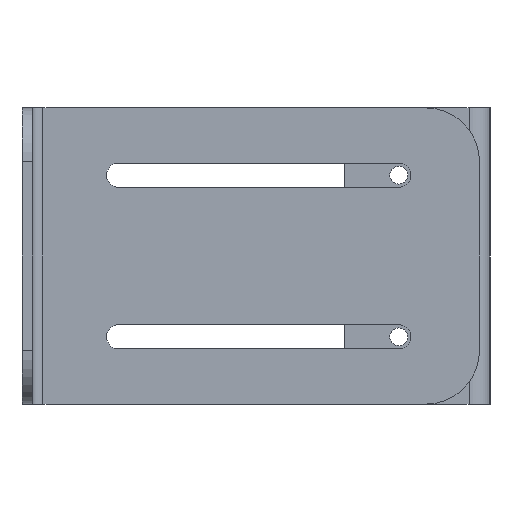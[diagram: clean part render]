
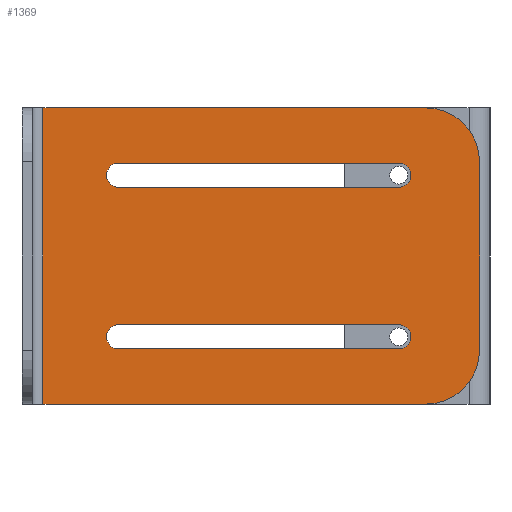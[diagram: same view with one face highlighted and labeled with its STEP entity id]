
A CAD part, left-side view. The second image highlights one B-rep face of the part: STEP entity #1369.
In plain terms, the highlighted planar face has unit normal (-1, 0, 0) as drawn and (0, 1, 0) by its records, which use the part's own axes.
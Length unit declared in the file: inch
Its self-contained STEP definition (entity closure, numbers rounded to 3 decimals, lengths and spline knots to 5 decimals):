
#50 = AXIS2_PLACEMENT_3D ( 'NONE', #2468, #1809, #1375 ) ;
#96 = CARTESIAN_POINT ( 'NONE',  ( 1.6065, 0.03937, 0.67913 ) ) ;
#133 = CARTESIAN_POINT ( 'NONE',  ( 2.19705, 0.03937, 0.68898 ) ) ;
#169 = EDGE_CURVE ( 'NONE', #885, #1834, #2436, .T. ) ;
#211 = DIRECTION ( 'NONE',  ( 0., 1., 0. ) ) ;
#251 = FACE_BOUND ( 'NONE', #488, .T. ) ;
#253 = VERTEX_POINT ( 'NONE', #2106 ) ;
#268 = ORIENTED_EDGE ( 'NONE', *, *, #1337, .F. ) ;
#279 = EDGE_CURVE ( 'NONE', #1284, #1930, #2688, .T. ) ;
#316 = LINE ( 'NONE', #1430, #934 ) ;
#346 = CIRCLE ( 'NONE', #2453, 0.3937 ) ;
#395 = VERTEX_POINT ( 'NONE', #574 ) ;
#410 = AXIS2_PLACEMENT_3D ( 'NONE', #2083, #2721, #2742 ) ;
#434 = VERTEX_POINT ( 'NONE', #469 ) ;
#438 = CARTESIAN_POINT ( 'NONE',  ( 2.19705, 0.03937, -1.08268 ) ) ;
#454 = ORIENTED_EDGE ( 'NONE', *, *, #1840, .T. ) ;
#460 = VERTEX_POINT ( 'NONE', #1402 ) ;
#463 = EDGE_CURVE ( 'NONE', #1093, #992, #1679, .T. ) ;
#469 = CARTESIAN_POINT ( 'NONE',  ( 2.19705, 0.03937, -0.68898 ) ) ;
#471 = CARTESIAN_POINT ( 'NONE',  ( 1.80335, 0.03937, 1.08268 ) ) ;
#475 = EDGE_LOOP ( 'NONE', ( #2269, #454, #1434, #1493, #736, #268 ) ) ;
#488 = EDGE_LOOP ( 'NONE', ( #800, #2028, #1448, #1733 ) ) ;
#490 = AXIS2_PLACEMENT_3D ( 'NONE', #2379, #2387, #2428 ) ;
#492 = LINE ( 'NONE', #1678, #1127 ) ;
#503 = DIRECTION ( 'NONE',  ( 0., 0., -1. ) ) ;
#574 = CARTESIAN_POINT ( 'NONE',  ( -0.99327, 0.03937, 1.08268 ) ) ;
#626 = FACE_BOUND ( 'NONE', #2207, .T. ) ;
#627 = LINE ( 'NONE', #672, #1347 ) ;
#637 = DIRECTION ( 'NONE',  ( 0., 0., 1. ) ) ;
#644 = EDGE_CURVE ( 'NONE', #395, #1560, #316, .T. ) ;
#658 = CARTESIAN_POINT ( 'NONE',  ( -0.44075, 0.03937, -0.67913 ) ) ;
#664 = CARTESIAN_POINT ( 'NONE',  ( -2.19705, 0.03937, -1.08268 ) ) ;
#672 = CARTESIAN_POINT ( 'NONE',  ( -2.19705, 0.03937, 1.08268 ) ) ;
#677 = DIRECTION ( 'NONE',  ( 1., 0., 0. ) ) ;
#691 = DIRECTION ( 'NONE',  ( 0., 1., 0. ) ) ;
#711 = CARTESIAN_POINT ( 'NONE',  ( -0.44075, 0.03937, -0.59055 ) ) ;
#736 = ORIENTED_EDGE ( 'NONE', *, *, #1530, .T. ) ;
#737 = DIRECTION ( 'NONE',  ( 1., 0., 0. ) ) ;
#747 = EDGE_CURVE ( 'NONE', #434, #1930, #2822, .T. ) ;
#776 = AXIS2_PLACEMENT_3D ( 'NONE', #979, #691, #801 ) ;
#800 = ORIENTED_EDGE ( 'NONE', *, *, #1468, .F. ) ;
#801 = DIRECTION ( 'NONE',  ( 0., 0., 1. ) ) ;
#828 = VERTEX_POINT ( 'NONE', #2825 ) ;
#858 = VECTOR ( 'NONE', #1937, 39.37008 ) ;
#885 = VERTEX_POINT ( 'NONE', #2070 ) ;
#918 = EDGE_CURVE ( 'NONE', #460, #2231, #1720, .T. ) ;
#934 = VECTOR ( 'NONE', #1680, 39.37008 ) ;
#963 = FACE_OUTER_BOUND ( 'NONE', #475, .T. ) ;
#979 = CARTESIAN_POINT ( 'NONE',  ( -0.44075, 0.03937, 0.59055 ) ) ;
#992 = VERTEX_POINT ( 'NONE', #96 ) ;
#998 = ORIENTED_EDGE ( 'NONE', *, *, #169, .F. ) ;
#1005 = DIRECTION ( 'NONE',  ( -1., 0., 0. ) ) ;
#1011 = CARTESIAN_POINT ( 'NONE',  ( -0.44075, 0.03937, 0.67913 ) ) ;
#1093 = VERTEX_POINT ( 'NONE', #1011 ) ;
#1127 = VECTOR ( 'NONE', #1894, 39.37008 ) ;
#1200 = VERTEX_POINT ( 'NONE', #1264 ) ;
#1215 = EDGE_CURVE ( 'NONE', #828, #253, #492, .T. ) ;
#1216 = DIRECTION ( 'NONE',  ( 0., 0., 1. ) ) ;
#1225 = VECTOR ( 'NONE', #2188, 39.37008 ) ;
#1264 = CARTESIAN_POINT ( 'NONE',  ( 1.80335, 0.03937, -1.08268 ) ) ;
#1284 = VERTEX_POINT ( 'NONE', #471 ) ;
#1337 = EDGE_CURVE ( 'NONE', #1560, #1200, #1341, .T. ) ;
#1341 = LINE ( 'NONE', #664, #2333 ) ;
#1347 = VECTOR ( 'NONE', #737, 39.37008 ) ;
#1368 = EDGE_CURVE ( 'NONE', #1834, #828, #2632, .T. ) ;
#1369 = ADVANCED_FACE ( 'NONE', ( #963, #626, #251 ), #1964, .T. ) ;
#1375 = DIRECTION ( 'NONE',  ( 0., 0., 1. ) ) ;
#1402 = CARTESIAN_POINT ( 'NONE',  ( 1.6065, 0.03937, 0.50197 ) ) ;
#1430 = CARTESIAN_POINT ( 'NONE',  ( -0.99327, 0.03937, 0. ) ) ;
#1434 = ORIENTED_EDGE ( 'NONE', *, *, #279, .T. ) ;
#1448 = ORIENTED_EDGE ( 'NONE', *, *, #2334, .F. ) ;
#1468 = EDGE_CURVE ( 'NONE', #2231, #1093, #1784, .T. ) ;
#1486 = VECTOR ( 'NONE', #637, 39.37008 ) ;
#1489 = ORIENTED_EDGE ( 'NONE', *, *, #1368, .F. ) ;
#1493 = ORIENTED_EDGE ( 'NONE', *, *, #747, .F. ) ;
#1530 = EDGE_CURVE ( 'NONE', #434, #1200, #346, .T. ) ;
#1560 = VERTEX_POINT ( 'NONE', #2326 ) ;
#1620 = CIRCLE ( 'NONE', #410, 0.08858 ) ;
#1668 = DIRECTION ( 'NONE',  ( 0., 1., 0. ) ) ;
#1678 = CARTESIAN_POINT ( 'NONE',  ( -0.44075, 0.03937, -0.50197 ) ) ;
#1679 = LINE ( 'NONE', #2067, #1225 ) ;
#1680 = DIRECTION ( 'NONE',  ( 0., 0., -1. ) ) ;
#1689 = CIRCLE ( 'NONE', #2561, 0.08858 ) ;
#1720 = LINE ( 'NONE', #2545, #2783 ) ;
#1733 = ORIENTED_EDGE ( 'NONE', *, *, #463, .F. ) ;
#1784 = CIRCLE ( 'NONE', #776, 0.08858 ) ;
#1809 = DIRECTION ( 'NONE',  ( 0., 1., 0. ) ) ;
#1834 = VERTEX_POINT ( 'NONE', #658 ) ;
#1840 = EDGE_CURVE ( 'NONE', #395, #1284, #627, .T. ) ;
#1849 = CARTESIAN_POINT ( 'NONE',  ( 1.80335, 0.03937, -0.68898 ) ) ;
#1894 = DIRECTION ( 'NONE',  ( 1., 0., 0. ) ) ;
#1909 = CARTESIAN_POINT ( 'NONE',  ( -0.44075, 0.03937, 0.50197 ) ) ;
#1913 = CARTESIAN_POINT ( 'NONE',  ( -0.44075, 0.03937, -0.67913 ) ) ;
#1930 = VERTEX_POINT ( 'NONE', #133 ) ;
#1937 = DIRECTION ( 'NONE',  ( -1., 0., 0. ) ) ;
#1964 = PLANE ( 'NONE',  #50 ) ;
#2024 = DIRECTION ( 'NONE',  ( 0., 1., 0. ) ) ;
#2028 = ORIENTED_EDGE ( 'NONE', *, *, #918, .F. ) ;
#2067 = CARTESIAN_POINT ( 'NONE',  ( -0.44075, 0.03937, 0.67913 ) ) ;
#2070 = CARTESIAN_POINT ( 'NONE',  ( 1.6065, 0.03937, -0.67913 ) ) ;
#2083 = CARTESIAN_POINT ( 'NONE',  ( 1.6065, 0.03937, -0.59055 ) ) ;
#2086 = AXIS2_PLACEMENT_3D ( 'NONE', #711, #2024, #503 ) ;
#2106 = CARTESIAN_POINT ( 'NONE',  ( 1.6065, 0.03937, -0.50197 ) ) ;
#2151 = EDGE_CURVE ( 'NONE', #253, #885, #1620, .T. ) ;
#2188 = DIRECTION ( 'NONE',  ( 1., 0., 0. ) ) ;
#2207 = EDGE_LOOP ( 'NONE', ( #1489, #998, #2306, #2760 ) ) ;
#2231 = VERTEX_POINT ( 'NONE', #1909 ) ;
#2269 = ORIENTED_EDGE ( 'NONE', *, *, #644, .F. ) ;
#2306 = ORIENTED_EDGE ( 'NONE', *, *, #2151, .F. ) ;
#2326 = CARTESIAN_POINT ( 'NONE',  ( -0.99327, 0.03937, -1.08268 ) ) ;
#2329 = CARTESIAN_POINT ( 'NONE',  ( 1.6065, 0.03937, 0.59055 ) ) ;
#2333 = VECTOR ( 'NONE', #677, 39.37008 ) ;
#2334 = EDGE_CURVE ( 'NONE', #992, #460, #1689, .T. ) ;
#2379 = CARTESIAN_POINT ( 'NONE',  ( 1.80335, 0.03937, 0.68898 ) ) ;
#2387 = DIRECTION ( 'NONE',  ( 0., 1., 0. ) ) ;
#2428 = DIRECTION ( 'NONE',  ( 0., 0., 1. ) ) ;
#2436 = LINE ( 'NONE', #1913, #858 ) ;
#2453 = AXIS2_PLACEMENT_3D ( 'NONE', #1849, #1668, #1216 ) ;
#2468 = CARTESIAN_POINT ( 'NONE',  ( 0., 0.03937, 0. ) ) ;
#2545 = CARTESIAN_POINT ( 'NONE',  ( -0.44075, 0.03937, 0.50197 ) ) ;
#2561 = AXIS2_PLACEMENT_3D ( 'NONE', #2329, #211, #2807 ) ;
#2632 = CIRCLE ( 'NONE', #2086, 0.08858 ) ;
#2688 = CIRCLE ( 'NONE', #490, 0.3937 ) ;
#2721 = DIRECTION ( 'NONE',  ( 0., 1., 0. ) ) ;
#2742 = DIRECTION ( 'NONE',  ( 0., 0., -1. ) ) ;
#2760 = ORIENTED_EDGE ( 'NONE', *, *, #1215, .F. ) ;
#2783 = VECTOR ( 'NONE', #1005, 39.37008 ) ;
#2807 = DIRECTION ( 'NONE',  ( 0., 0., 1. ) ) ;
#2822 = LINE ( 'NONE', #438, #1486 ) ;
#2825 = CARTESIAN_POINT ( 'NONE',  ( -0.44075, 0.03937, -0.50197 ) ) ;
